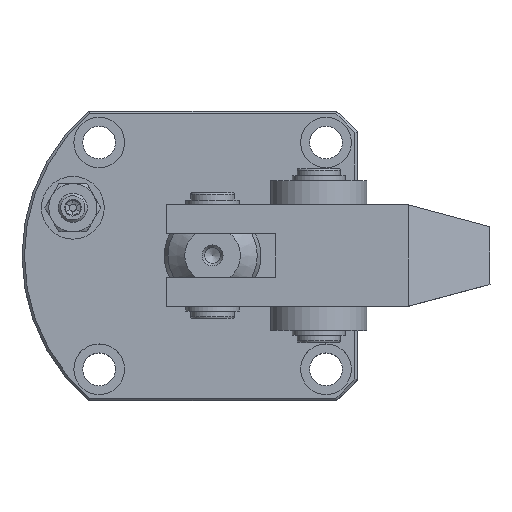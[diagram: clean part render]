
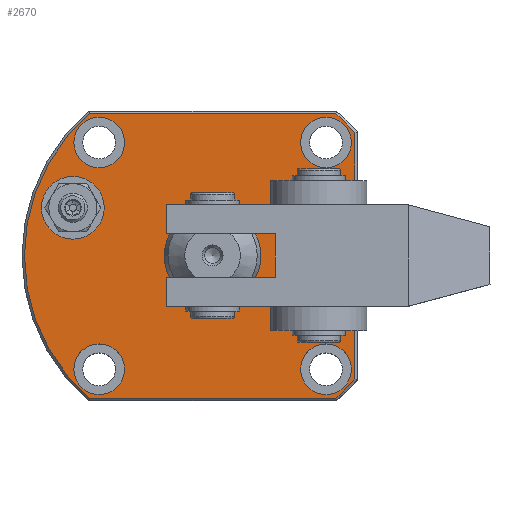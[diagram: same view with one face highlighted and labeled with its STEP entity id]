
A CAD part, top view. The second image highlights one B-rep face of the part: STEP entity #2670.
In plain terms, the highlighted planar face has unit normal (0, 0, 1).
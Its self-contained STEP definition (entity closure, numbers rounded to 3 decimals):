
#221=CIRCLE('',#2959,39.);
#222=CIRCLE('',#2962,39.);
#223=CIRCLE('',#2965,39.);
#225=CIRCLE('',#2969,10.);
#226=CIRCLE('',#2971,5.25);
#227=CIRCLE('',#2973,5.25);
#228=CIRCLE('',#2975,5.25);
#229=CIRCLE('',#2977,5.25);
#230=CIRCLE('',#2979,6.5);
#681=ORIENTED_EDGE('',*,*,#1224,.T.);
#682=ORIENTED_EDGE('',*,*,#1223,.F.);
#683=ORIENTED_EDGE('',*,*,#1222,.F.);
#684=ORIENTED_EDGE('',*,*,#1221,.F.);
#685=ORIENTED_EDGE('',*,*,#1220,.F.);
#686=ORIENTED_EDGE('',*,*,#1219,.T.);
#687=ORIENTED_EDGE('',*,*,#1225,.T.);
#688=ORIENTED_EDGE('',*,*,#1226,.T.);
#689=ORIENTED_EDGE('',*,*,#1215,.T.);
#690=ORIENTED_EDGE('',*,*,#1214,.T.);
#691=ORIENTED_EDGE('',*,*,#1212,.T.);
#692=ORIENTED_EDGE('',*,*,#1210,.T.);
#693=ORIENTED_EDGE('',*,*,#1208,.T.);
#694=ORIENTED_EDGE('',*,*,#1205,.T.);
#695=ORIENTED_EDGE('',*,*,#1217,.T.);
#696=ORIENTED_EDGE('',*,*,#1227,.F.);
#1205=EDGE_CURVE('',#1506,#1505,#221,.T.);
#1208=EDGE_CURVE('',#1507,#1506,#1693,.T.);
#1210=EDGE_CURVE('',#1508,#1507,#222,.T.);
#1212=EDGE_CURVE('',#1509,#1508,#1694,.T.);
#1214=EDGE_CURVE('',#1510,#1509,#223,.T.);
#1215=EDGE_CURVE('',#1511,#1510,#1695,.T.);
#1217=EDGE_CURVE('',#1505,#1512,#1697,.T.);
#1219=EDGE_CURVE('',#1514,#1514,#225,.T.);
#1220=EDGE_CURVE('',#1515,#1515,#226,.T.);
#1221=EDGE_CURVE('',#1516,#1516,#227,.T.);
#1222=EDGE_CURVE('',#1517,#1517,#228,.T.);
#1223=EDGE_CURVE('',#1518,#1518,#229,.T.);
#1224=EDGE_CURVE('',#1519,#1519,#230,.F.);
#1225=EDGE_CURVE('',#1520,#1521,#1698,.T.);
#1226=EDGE_CURVE('',#1521,#1511,#1699,.T.);
#1227=EDGE_CURVE('',#1520,#1512,#1700,.T.);
#1505=VERTEX_POINT('',#4584);
#1506=VERTEX_POINT('',#4586);
#1507=VERTEX_POINT('',#4596);
#1508=VERTEX_POINT('',#4603);
#1509=VERTEX_POINT('',#4610);
#1510=VERTEX_POINT('',#4617);
#1511=VERTEX_POINT('',#4621);
#1512=VERTEX_POINT('',#4623);
#1514=VERTEX_POINT('',#4629);
#1515=VERTEX_POINT('',#4632);
#1516=VERTEX_POINT('',#4635);
#1517=VERTEX_POINT('',#4638);
#1518=VERTEX_POINT('',#4641);
#1519=VERTEX_POINT('',#4644);
#1520=VERTEX_POINT('',#4647);
#1521=VERTEX_POINT('',#4648);
#1693=LINE('',#4597,#1818);
#1694=LINE('',#4611,#1819);
#1695=LINE('',#4620,#1820);
#1697=LINE('',#4624,#1822);
#1698=LINE('',#4646,#1823);
#1699=LINE('',#4649,#1824);
#1700=LINE('',#4650,#1825);
#1818=VECTOR('',#3426,1000.);
#1819=VECTOR('',#3433,1000.);
#1820=VECTOR('',#3440,1000.);
#1822=VECTOR('',#3442,1000.);
#1823=VECTOR('',#3471,1000.);
#1824=VECTOR('',#3472,1000.);
#1825=VECTOR('',#3473,1000.);
#2025=EDGE_LOOP('',(#681));
#2026=EDGE_LOOP('',(#682));
#2027=EDGE_LOOP('',(#683));
#2028=EDGE_LOOP('',(#684));
#2029=EDGE_LOOP('',(#685));
#2030=EDGE_LOOP('',(#686));
#2031=EDGE_LOOP('',(#687,#688,#689,#690,#691,#692,#693,#694,#695,#696));
#2322=FACE_BOUND('',#2025,.T.);
#2323=FACE_BOUND('',#2026,.T.);
#2324=FACE_BOUND('',#2027,.T.);
#2325=FACE_BOUND('',#2028,.T.);
#2326=FACE_BOUND('',#2029,.T.);
#2327=FACE_BOUND('',#2030,.T.);
#2328=FACE_BOUND('',#2031,.T.);
#2536=PLANE('',#2980);
#2670=ADVANCED_FACE('',(#2322,#2323,#2324,#2325,#2326,#2327,#2328),#2536,
 .T.);
#2959=AXIS2_PLACEMENT_3D('',#4585,#3422,#3423);
#2962=AXIS2_PLACEMENT_3D('',#4604,#3429,#3430);
#2965=AXIS2_PLACEMENT_3D('',#4618,#3436,#3437);
#2969=AXIS2_PLACEMENT_3D('',#4628,#3447,#3448);
#2971=AXIS2_PLACEMENT_3D('',#4631,#3451,#3452);
#2973=AXIS2_PLACEMENT_3D('',#4634,#3455,#3456);
#2975=AXIS2_PLACEMENT_3D('',#4637,#3459,#3460);
#2977=AXIS2_PLACEMENT_3D('',#4640,#3463,#3464);
#2979=AXIS2_PLACEMENT_3D('',#4643,#3467,#3468);
#2980=AXIS2_PLACEMENT_3D('',#4645,#3469,#3470);
#3422=DIRECTION('',(0.,0.,1.));
#3423=DIRECTION('',(0.,-1.,0.));
#3426=DIRECTION('',(1.,0.,0.));
#3429=DIRECTION('',(0.,0.,1.));
#3430=DIRECTION('',(0.,-1.,0.));
#3433=DIRECTION('',(-1.,0.,0.));
#3436=DIRECTION('',(0.,0.,1.));
#3437=DIRECTION('',(0.,-1.,0.));
#3440=DIRECTION('',(0.,1.,0.));
#3442=DIRECTION('',(0.,1.,0.));
#3447=DIRECTION('',(0.,0.,-1.));
#3448=DIRECTION('',(0.,-1.,0.));
#3451=DIRECTION('',(0.,0.,1.));
#3452=DIRECTION('',(1.,0.,0.));
#3455=DIRECTION('',(0.,0.,1.));
#3456=DIRECTION('',(1.,0.,0.));
#3459=DIRECTION('',(0.,0.,1.));
#3460=DIRECTION('',(1.,0.,0.));
#3463=DIRECTION('',(0.,0.,1.));
#3464=DIRECTION('',(1.,0.,0.));
#3467=DIRECTION('',(0.,0.,1.));
#3468=DIRECTION('',(0.,-1.,0.));
#3469=DIRECTION('',(0.,0.,1.));
#3470=DIRECTION('',(0.,-1.,0.));
#3471=DIRECTION('',(0.,1.,0.));
#3472=DIRECTION('',(1.,0.,0.));
#3473=DIRECTION('',(1.,0.,0.));
#4584=CARTESIAN_POINT('',(20.5,4.99,19.5));
#4585=CARTESIAN_POINT('',(-9.,30.5,19.5));
#4586=CARTESIAN_POINT('',(16.51,1.,19.5));
#4596=CARTESIAN_POINT('',(-34.51,1.,19.5));
#4597=CARTESIAN_POINT('',(-9.,1.,19.5));
#4603=CARTESIAN_POINT('',(-34.51,60.,19.5));
#4604=CARTESIAN_POINT('',(-9.,30.5,19.5));
#4610=CARTESIAN_POINT('',(16.51,60.,19.5));
#4611=CARTESIAN_POINT('',(-9.,60.,19.5));
#4617=CARTESIAN_POINT('',(20.5,56.01,19.5));
#4618=CARTESIAN_POINT('',(-9.,30.5,19.5));
#4620=CARTESIAN_POINT('',(20.5,30.5,19.5));
#4621=CARTESIAN_POINT('',(20.5,41.,19.5));
#4623=CARTESIAN_POINT('',(20.5,20.,19.5));
#4624=CARTESIAN_POINT('',(20.5,30.5,19.5));
#4628=CARTESIAN_POINT('',(-9.,30.5,19.5));
#4629=CARTESIAN_POINT('',(-9.,20.5,19.5));
#4631=CARTESIAN_POINT('',(14.5,54.,19.5));
#4632=CARTESIAN_POINT('',(19.75,54.,19.5));
#4634=CARTESIAN_POINT('',(-32.5,54.,19.5));
#4635=CARTESIAN_POINT('',(-27.25,54.,19.5));
#4637=CARTESIAN_POINT('',(-32.5,7.,19.5));
#4638=CARTESIAN_POINT('',(-27.25,7.,19.5));
#4640=CARTESIAN_POINT('',(14.5,7.,19.5));
#4641=CARTESIAN_POINT('',(19.75,7.,19.5));
#4643=CARTESIAN_POINT('',(-37.96,40.47,19.5));
#4644=CARTESIAN_POINT('',(-37.96,33.97,19.5));
#4645=CARTESIAN_POINT('',(-9.,30.5,19.5));
#4646=CARTESIAN_POINT('',(4.,30.5,19.5));
#4647=CARTESIAN_POINT('',(4.,20.,19.5));
#4648=CARTESIAN_POINT('',(4.,41.,19.5));
#4649=CARTESIAN_POINT('',(5.,41.,19.5));
#4650=CARTESIAN_POINT('',(5.,20.,19.5));
